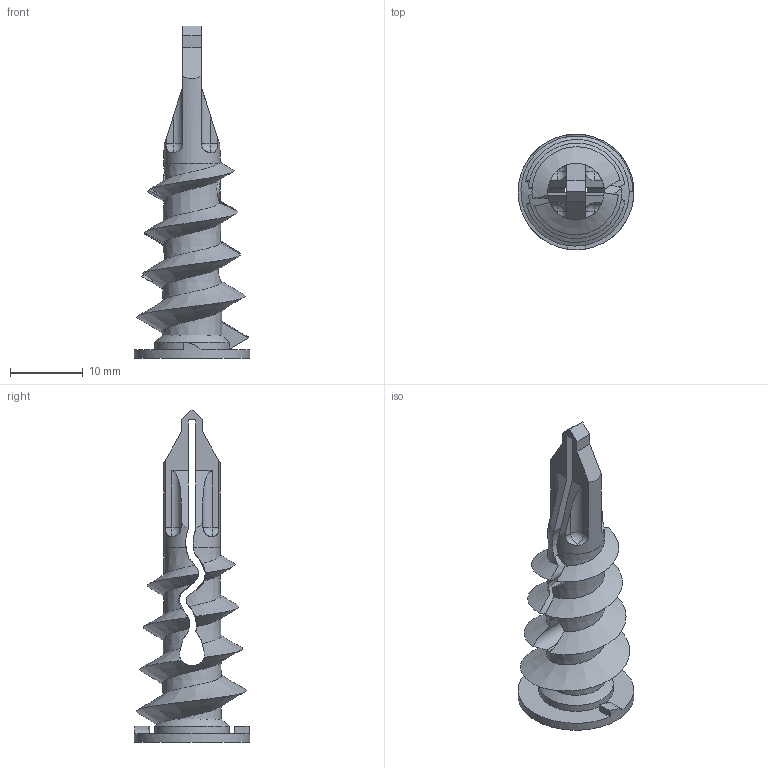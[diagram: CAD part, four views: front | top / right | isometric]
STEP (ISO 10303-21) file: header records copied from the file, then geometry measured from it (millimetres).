
FILE_DESCRIPTION(/* description */ (''),/* implementation_level */ '2;1');
FILE_NAME(/* name */ 'dads drywall screw v6.step',/* time_stamp */ '2024-07-12T22:13:07-04:00',/* author */ (''),/* organization */ (''),/* preprocessor_version */ 'ST-DEVELOPER v20',/* originating_system */ 'Autodesk Translation Framework v13.14.0.145',/* authorisation */ '');
FILE_SCHEMA (('AUTOMOTIVE_DESIGN { 1 0 10303 214 3 1 1 }'));
Length unit declared in the file: millimetre
Products named in the file (1): dads drywall screw
Bounding box: 15.85 x 15.85 x 45.49 mm (x, y, z)
Volume: 2050.4 mm3; surface area: 2607.6 mm2
Topology: 1 solids, 1 shells, 117 faces, 344 edges, 227 vertices
Faces by surface type: plane 56, cylinder 32, bspline 16, cone 9, sphere 4
Full cylindrical faces by diameter (mm): 3.2 x1, 10.2 x1, 15.85 x1
Entity records: 7442 total; most frequent: CARTESIAN_POINT 4487, ORIENTED_EDGE 688, DIRECTION 511, EDGE_CURVE 344, VERTEX_POINT 227, AXIS2_PLACEMENT_3D 179, LINE 153, VECTOR 153
